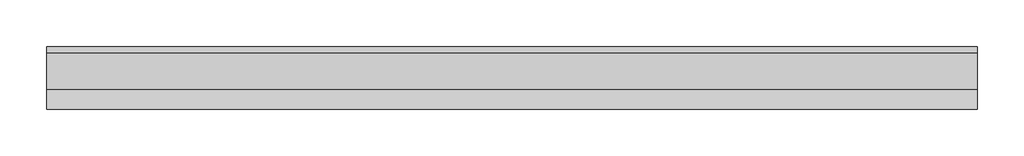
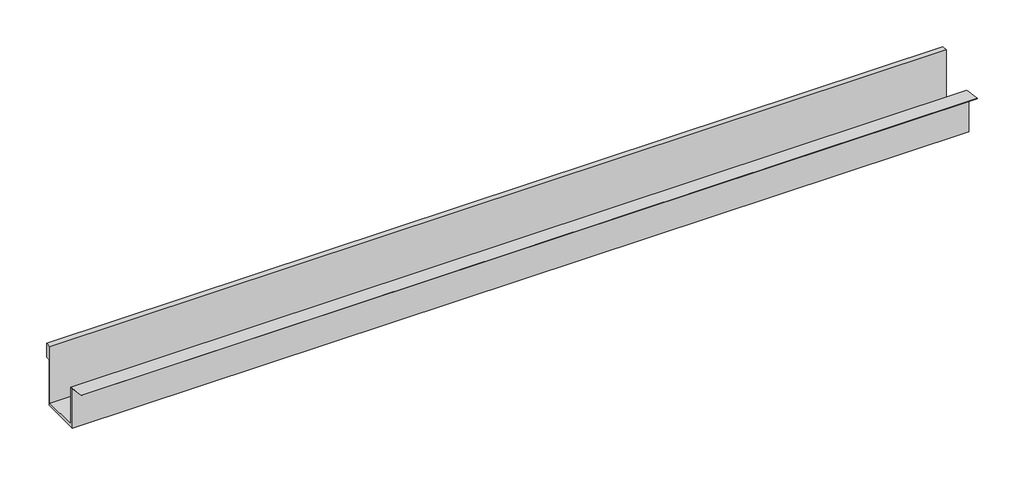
# One storey: 1 proxy.
"""IFC4 building model written with IfcOpenShell, lengths in millimetres."""

from ifc_helpers import new_model, si_unit, origin, place, context, project, spatial, transform, mapped, element, save
from components import generic_models_f777319b

model = new_model("IFC4")

# Units and contexts
model_context = context("Model", 3, world=origin())
ifc_project = project(units=[si_unit("LENGTHUNIT", "METRE", prefix="MILLI")], contexts=[model_context])

# Site, building, storey
site = spatial("IfcSite", under=ifc_project)
building = spatial("IfcBuilding", under=site)
storey = spatial("IfcBuildingStorey", under=building, Name="Forros", Elevation=2900.0)

# Proxy
placement = place(None, origin())
generic_models_shape = generic_models_f777319b(model_context)
element("IfcBuildingElementProxy", 1, Name="Modelos genéricos 4 : Modelos genéricos 1", ObjectType="Modelos genéricos 4 : Modelos genéricos 1", at=placement, inside=storey, context=model_context, shape_type="MappedRepresentation", body=[
    mapped(generic_models_shape, transform((0.0, -302.3892413, -105523.1642872), x_axis=(1.0, 0.0, 0.0), y_axis=(0.0, 1.0, 0.0), z_axis=(0.0, 0.0, 1.0))),
])

save(model, "model.ifc")
